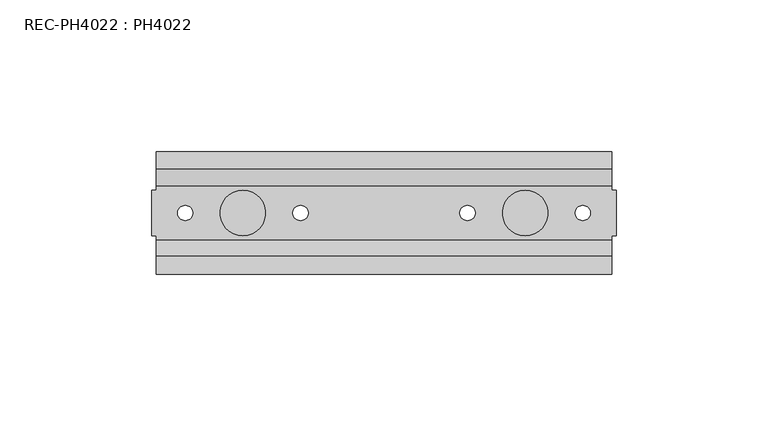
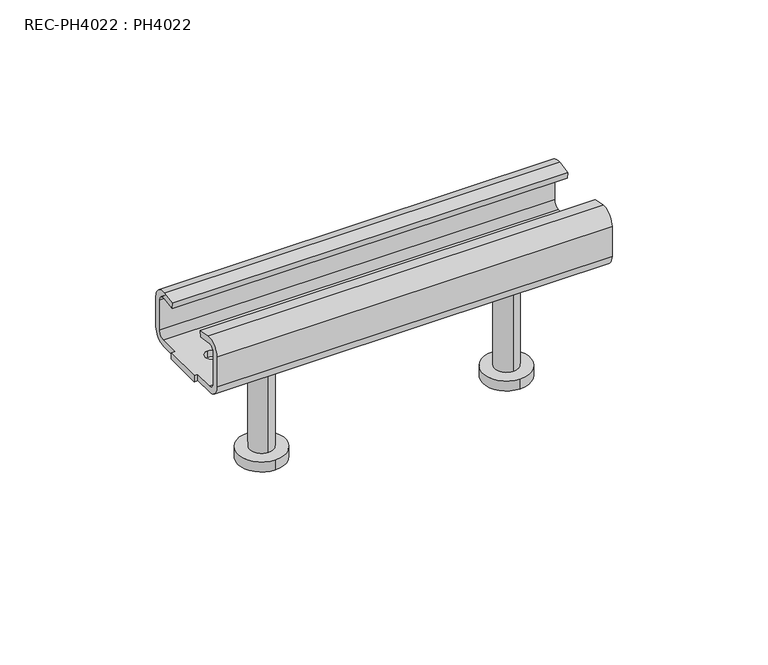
"""IFC4 building model written with IfcOpenShell, lengths in millimetres: fastener geometry, REC-PH4022 : PH4022."""

import ifcopenshell
import ifcopenshell.guid

model = None  # the IFC model being written
_history = None  # IfcOwnerHistory: only IFC2X3 demands one
_inside = {}  # id of a spatial element -> (the spatial element, [elements in it])
_under = {}  # id of a project, library or spatial element -> (it, [spatial elements below it])
_declared = {}  # id of a project -> (the project, [libraries it declares])
_typed = {}  # id of a type object -> (the type object, [elements of that type])
_made_of = {}  # id of a material, layer set ... -> (it, [elements and type objects made of it])


def new_model(schema):
    """Start an empty IFC model of exactly this schema.

    Asked for "IFC4X3", IfcOpenShell would pick the latest addendum, in which some entities
    have other attributes; the version numbers below select the first issue.
    IFC2X3 requires an IfcOwnerHistory on every rooted entity: one is made here for all.
    """
    global model, _history
    if schema == "IFC4X3":
        model = ifcopenshell.file(schema_version=(4, 3, 0, 0))
    else:
        model = ifcopenshell.file(schema=schema)
    _inside.clear()
    _under.clear()
    _declared.clear()
    _typed.clear()
    _made_of.clear()
    _history = None
    if model.schema == "IFC2X3":
        org = make("IfcOrganization", Name="unknown")
        user = make(
            "IfcPersonAndOrganization",
            ThePerson=make("IfcPerson", FamilyName="unknown"),
            TheOrganization=org,
        )
        app = make(
            "IfcApplication",
            ApplicationDeveloper=org,
            Version="unknown",
            ApplicationFullName="unknown",
            ApplicationIdentifier="unknown",
        )
        _history = make(
            "IfcOwnerHistory",
            OwningUser=user,
            OwningApplication=app,
            ChangeAction="ADDED",
            CreationDate=0,
        )
    return model


def make(cls, **values):
    """One entity of the class cls with the attributes given. An attribute that is None is left unset."""
    return model.create_entity(
        cls, **{name: value for name, value in values.items() if value is not None}
    )


def rooted(cls, **values):
    """An entity with a GlobalId (a new one), such as an element, a storey or a relation."""
    return make(cls, GlobalId=ifcopenshell.guid.new(), OwnerHistory=_history, **values)


def si_unit(unit_type, name, prefix=None):
    """IfcSIUnit, for example si_unit("LENGTHUNIT", "METRE", prefix="MILLI")."""
    return make("IfcSIUnit", UnitType=unit_type, Prefix=prefix, Name=name)


def assignment(units):
    """IfcUnitAssignment: the units of a project."""
    return None if units is None else make("IfcUnitAssignment", Units=units)


def point(xyz):
    """IfcCartesianPoint."""
    return None if xyz is None else make("IfcCartesianPoint", Coordinates=xyz)


def direction(xyz):
    """IfcDirection."""
    return None if xyz is None else make("IfcDirection", DirectionRatios=xyz)


def frame(location, z_axis=None, x_axis=None):
    """IfcAxis2Placement3D, a coordinate frame: its origin and axes. An axis left out is left unset."""
    return make(
        "IfcAxis2Placement3D",
        Location=point(location),
        Axis=direction(z_axis),
        RefDirection=direction(x_axis),
    )


def frame_2d(location, x_axis=None):
    """IfcAxis2Placement2D, a coordinate frame in the plane: its origin and x axis."""
    return make(
        "IfcAxis2Placement2D", Location=point(location), RefDirection=direction(x_axis)
    )


def origin():
    """The frame at (0, 0, 0) with its axes left unset."""
    return frame((0.0, 0.0, 0.0))


def place(relative_to, where):
    """IfcLocalPlacement: puts the frame where relative to a parent placement (None: the world)."""
    return make(
        "IfcLocalPlacement", PlacementRelTo=relative_to, RelativePlacement=where
    )


def context(
    kind, dimensions, precision=None, world=None, true_north=None, identifier=None
):
    """IfcGeometricRepresentationContext, for example the 3D "Model" context."""
    return make(
        "IfcGeometricRepresentationContext",
        ContextIdentifier=identifier,
        ContextType=kind,
        CoordinateSpaceDimension=dimensions,
        Precision=precision,
        WorldCoordinateSystem=world,
        TrueNorth=true_north,
    )


def project(units=None, contexts=None):
    """IfcProject with its units and contexts."""
    return rooted(
        "IfcProject",
        Name="project",
        RepresentationContexts=contexts,
        UnitsInContext=assignment(units),
    )


def spatial(cls, under=None, at=None, **own):
    """A site, building, storey or space (cls), placed at a placement, below another one or the project."""
    s = rooted(cls, ObjectPlacement=at, **own)
    if under is not None:
        _under.setdefault(under.id(), (under, []))[1].append(s)
    return s


def polyline(points):
    """IfcPolyline through the points."""
    return make("IfcPolyline", Points=[point(p) for p in points])


def circle_curve(where, radius):
    """IfcCircle in the frame where."""
    return make("IfcCircle", Position=where, Radius=radius)


def trimmed(basis, trim1, trim2, sense, master):
    """IfcTrimmedCurve: the piece of a basis curve between two trims."""
    return make(
        "IfcTrimmedCurve",
        BasisCurve=basis,
        Trim1=trim1,
        Trim2=trim2,
        SenseAgreement=sense,
        MasterRepresentation=master,
    )


def segment(curve, same_sense, transition):
    """IfcCompositeCurveSegment."""
    return make(
        "IfcCompositeCurveSegment",
        Transition=transition,
        SameSense=same_sense,
        ParentCurve=curve,
    )


def composite_curve(segments, self_intersect=None):
    """IfcCompositeCurve: segments joined end to end."""
    return make("IfcCompositeCurve", Segments=segments, SelfIntersect=self_intersect)


def outline(outer, holes=None, kind="AREA"):
    """IfcArbitraryClosedProfileDef: a profile drawn as a closed curve; with holes, ...WithVoids."""
    if holes is None:
        return make("IfcArbitraryClosedProfileDef", ProfileType=kind, OuterCurve=outer)
    return make(
        "IfcArbitraryProfileDefWithVoids",
        ProfileType=kind,
        OuterCurve=outer,
        InnerCurves=holes,
    )


def extrude(swept, where, along, depth):
    """IfcExtrudedAreaSolid: the profile swept, set in the frame where, extruded along a direction by depth."""
    return make(
        "IfcExtrudedAreaSolid",
        SweptArea=swept,
        Position=where,
        ExtrudedDirection=direction(along),
        Depth=depth,
    )


def shape(context_of_items, identifier, shape_type, items):
    """IfcShapeRepresentation: the items that make up one representation, for example the "Body"."""
    return make(
        "IfcShapeRepresentation",
        ContextOfItems=context_of_items,
        RepresentationIdentifier=identifier,
        RepresentationType=shape_type,
        Items=items,
    )


def source(mapping_origin, context_of_items, identifier, shape_type, items):
    """IfcRepresentationMap: a shape defined once, which mapped items show again and again."""
    return make(
        "IfcRepresentationMap",
        MappingOrigin=mapping_origin,
        MappedRepresentation=shape(context_of_items, identifier, shape_type, items),
    )


def transform(
    local_origin,
    x_axis=None,
    y_axis=None,
    z_axis=None,
    scale=None,
    scale2=None,
    scale3=None,
    uniform=True,
):
    """IfcCartesianTransformationOperator3D, or its non-uniform kind. x_axis, y_axis, z_axis: its Axis1, 2, 3."""
    if uniform:
        return make(
            "IfcCartesianTransformationOperator3D",
            Axis1=direction(x_axis),
            Axis2=direction(y_axis),
            LocalOrigin=point(local_origin),
            Scale=scale,
            Axis3=direction(z_axis),
        )
    return make(
        "IfcCartesianTransformationOperator3DnonUniform",
        Axis1=direction(x_axis),
        Axis2=direction(y_axis),
        LocalOrigin=point(local_origin),
        Scale=scale,
        Axis3=direction(z_axis),
        Scale2=scale2,
        Scale3=scale3,
    )


def mapped(mapping_source, mapping_target):
    """IfcMappedItem: shows the shape of a source again, moved by a transform."""
    return make(
        "IfcMappedItem", MappingSource=mapping_source, MappingTarget=mapping_target
    )


def made_of(thing, what):
    """Note that an element or type object is made of a material, layer set ...; save() writes the relation."""
    if what is not None:
        _made_of.setdefault(what.id(), (what, []))[1].append(thing)
    return thing


def element(
    cls,
    number,
    at=None,
    inside=None,
    cuts=None,
    type_object=None,
    material=None,
    context=None,
    identifier="Body",
    shape_type=None,
    held_by="IfcProductDefinitionShape",
    body=None,
    shapes=None,
    **own,
):
    """One element of the class cls, such as IfcWall. Its Tag is "e" and its number.

    at: its placement. inside: the storey or other place that contains it. cuts: it is an
    opening in that element (IfcRelVoidsElement). A single representation is given by context,
    identifier, shape_type and body (its items); several are given by shapes. held_by: the class
    of the entity that holds the representations. save() writes the other relations.
    """
    e = rooted(cls, Tag="e%d" % number, ObjectPlacement=at, **own)
    if body is not None:
        shapes = [shape(context, identifier, shape_type, body)]
    if shapes is not None:
        e.Representation = make(held_by, Representations=shapes)
    if inside is not None:
        _inside.setdefault(inside.id(), (inside, []))[1].append(e)
    if cuts is not None:
        rooted(
            "IfcRelVoidsElement", RelatingBuildingElement=cuts, RelatedOpeningElement=e
        )
    if type_object is not None:
        _typed.setdefault(type_object.id(), (type_object, []))[1].append(e)
    return made_of(e, material)


def aggregate(whole, parts):
    """IfcRelAggregates: a whole, such as a stair, and the parts it consists of."""
    return rooted("IfcRelAggregates", RelatingObject=whole, RelatedObjects=parts)


def save(model, path):
    """Write the relations noted so far, then the file.

    IfcRelAggregates (storeys below a building ...), IfcRelContainedInSpatialStructure (elements
    in a storey), IfcRelDefinesByType, IfcRelAssociatesMaterial and IfcRelDeclares: one each for
    every whole, place, type object, material and project.
    """
    for whole, parts in _under.values():
        aggregate(whole, parts)
    for where, things in _inside.values():
        rooted(
            "IfcRelContainedInSpatialStructure",
            RelatedElements=things,
            RelatingStructure=where,
        )
    for kind, things in _typed.values():
        rooted("IfcRelDefinesByType", RelatedObjects=things, RelatingType=kind)
    for what, things in _made_of.values():
        rooted("IfcRelAssociatesMaterial", RelatedObjects=things, RelatingMaterial=what)
    for by, libraries in _declared.values():
        rooted("IfcRelDeclares", RelatingContext=by, RelatedDefinitions=libraries)
    model.write(path)


def plane_surface(at):
    """IfcPlane: the flat surface through the origin of the frame at, square to its z axis."""
    return make("IfcPlane", Position=at)


def cylinder_surface(at, radius):
    """IfcCylindricalSurface: all points at the distance radius from the z axis of the frame at."""
    return make("IfcCylindricalSurface", Position=at, Radius=radius)


def revolved_surface(curve, axis_point, axis_direction):
    """IfcSurfaceOfRevolution: the curve turned about the line through axis_point along axis_direction."""
    return make(
        "IfcSurfaceOfRevolution",
        SweptCurve=make("IfcArbitraryOpenProfileDef", ProfileType="CURVE", Curve=curve),
        AxisPosition=make("IfcAxis1Placement", Location=point(axis_point), Axis=direction(axis_direction)),
    )


def advanced_brep(points, edges, surfaces, faces):
    """IfcAdvancedBrep: a solid bounded by faces that lie on surfaces and meet in shared edges.

    An edge is (start, end): straight between two places in points (the first is 0);
    or (start, end, curve); or (start, end, curve, False) where it runs against its curve.
    A face is (place in surfaces, loops), or (place, loops, False) where it looks against
    its surface's normal. A loop lists edges by number (the first is 1), with a minus sign
    where the edge is run from its end to its start. The first loop is the outer one.
    """
    corners = [point(p) for p in points]
    vertices = [make("IfcVertexPoint", VertexGeometry=c) for c in corners]
    made = []
    for start, end, *more in edges:
        made.append(
            make(
                "IfcEdgeCurve",
                EdgeStart=vertices[start],
                EdgeEnd=vertices[end],
                EdgeGeometry=more[0] if more else make("IfcPolyline", Points=[corners[start], corners[end]]),
                SameSense=more[1] if len(more) > 1 else True,
            )
        )
    hull = []
    for where, loops, *sense in faces:
        bounds = []
        for j, loop in enumerate(loops):
            ring = [make("IfcOrientedEdge", EdgeElement=made[abs(k) - 1], Orientation=k > 0) for k in loop]
            bounds.append(
                make(
                    "IfcFaceOuterBound" if j == 0 else "IfcFaceBound",
                    Bound=make("IfcEdgeLoop", EdgeList=ring),
                    Orientation=True,
                )
            )
        hull.append(make("IfcAdvancedFace", Bounds=bounds, FaceSurface=surfaces[where], SameSense=sense[0] if sense else True))
    return make("IfcAdvancedBrep", Outer=make("IfcClosedShell", CfsFaces=hull))


def rec_ph4022_ph4022_34b11cd3(model_context):
    return source(origin(), model_context, "Body", "SolidModel", [
        extrude(outline(composite_curve([segment(trimmed(circle_curve(frame_2d((46.5, 0.0)), 7.5), [point((46.5, 7.5))], [point((46.5, -7.5))], False, "CARTESIAN"), True, "CONTINUOUS"), segment(trimmed(circle_curve(frame_2d((46.5, 0.0)), 7.5), [point((46.5, -7.5))], [point((46.5, 7.5))], False, "CARTESIAN"), True, "CONTINUOUS")], self_intersect=False)), frame((0.0, 0.0, -19.5748058), z_axis=(0.0, 0.0, 1.0), x_axis=(1.0, 0.0, 0.0)), (0.0, 0.0, 1.0), 3.5),
        extrude(outline(composite_curve([segment(trimmed(circle_curve(frame_2d((46.5, 0.0)), 9.0), [point((46.5, 9.0))], [point((46.5, -9.0))], False, "CARTESIAN"), True, "CONTINUOUS"), segment(trimmed(circle_curve(frame_2d((46.5, 0.0)), 9.0), [point((46.5, -9.0))], [point((46.5, 9.0))], False, "CARTESIAN"), True, "CONTINUOUS")], self_intersect=False)), frame((0.0, 0.0, -67.0748058), z_axis=(0.0, 0.0, 1.0), x_axis=(1.0, 0.0, 0.0)), (0.0, 0.0, 1.0), 4.0),
        extrude(outline(composite_curve([segment(trimmed(circle_curve(frame_2d((46.5, 0.0)), 4.5), [point((46.5, -4.5))], [point((46.5, 4.5))], False, "CARTESIAN"), True, "CONTINUOUS"), segment(trimmed(circle_curve(frame_2d((46.5, 0.0)), 4.5), [point((46.5, 4.5))], [point((46.5, -4.5))], False, "CARTESIAN"), True, "CONTINUOUS")], self_intersect=False)), frame((0.0, 0.0, -63.0748058), z_axis=(0.0, 0.0, 1.0), x_axis=(1.0, 0.0, 0.0)), (0.0, 0.0, 1.0), 41.0),
        extrude(outline(composite_curve([segment(trimmed(circle_curve(frame_2d((-46.5, 0.0)), 7.5), [point((-46.5, 7.5))], [point((-46.5, -7.5))], False, "CARTESIAN"), True, "CONTINUOUS"), segment(trimmed(circle_curve(frame_2d((-46.5, 0.0)), 7.5), [point((-46.5, -7.5))], [point((-46.5, 7.5))], False, "CARTESIAN"), True, "CONTINUOUS")], self_intersect=False)), frame((0.0, 0.0, -19.5748058), z_axis=(0.0, 0.0, 1.0), x_axis=(1.0, 0.0, 0.0)), (0.0, 0.0, 1.0), 3.5),
        extrude(outline(composite_curve([segment(trimmed(circle_curve(frame_2d((-46.5, 0.0)), 9.0), [point((-46.5, 9.0))], [point((-46.5, -9.0))], False, "CARTESIAN"), True, "CONTINUOUS"), segment(trimmed(circle_curve(frame_2d((-46.5, 0.0)), 9.0), [point((-46.5, -9.0))], [point((-46.5, 9.0))], False, "CARTESIAN"), True, "CONTINUOUS")], self_intersect=False)), frame((0.0, 0.0, -67.0748058), z_axis=(0.0, 0.0, 1.0), x_axis=(1.0, 0.0, 0.0)), (0.0, 0.0, 1.0), 4.0),
        extrude(outline(composite_curve([segment(trimmed(circle_curve(frame_2d((-46.5, 0.0)), 4.5), [point((-46.5, -4.5))], [point((-46.5, 4.5))], False, "CARTESIAN"), True, "CONTINUOUS"), segment(trimmed(circle_curve(frame_2d((-46.5, 0.0)), 4.5), [point((-46.5, 4.5))], [point((-46.5, -4.5))], False, "CARTESIAN"), True, "CONTINUOUS")], self_intersect=False)), frame((0.0, 0.0, -63.0748058), z_axis=(0.0, 0.0, 1.0), x_axis=(1.0, 0.0, 0.0)), (0.0, 0.0, 1.0), 41.0),
        advanced_brep(
        [(76.5, 7.5, -19.5748058), (76.5, -7.5, -19.5748058), (76.5, -7.5, -22.0748058), (76.5, 7.5, -22.0748058), (-76.5, 7.5, -22.0748058), (-76.5, -7.5, -22.0748058), (-76.5, -7.5, -19.5748058), (-76.5, 7.5, -19.5748058), (75.0, 9.0, -1.0), (-75.0, 9.0, -1.0), (-75.0, 9.3971276, -3.4682564), (75.0, 9.3971276, -3.4682564), (75.0, 14.3557449, -0.138293), (-75.0, 14.3557449, -0.138293), (75.0, 20.15, -5.0748058), (-75.0, 20.15, -5.0748058), (75.0, 20.15, -17.0748058), (-75.0, 20.15, -17.0748058), (75.0, 15.15, -22.0748058), (-75.0, 15.15, -22.0748058), (75.0, 7.5, -22.0748058), (75.0, -7.5, -22.0748058), (75.0, -15.15, -22.0748058), (-75.0, -15.15, -22.0748058), (-75.0, -7.5, -22.0748058), (-75.0, 7.5, -22.0748058), (65.5, 2.5, -22.0748058), (65.5, -2.5, -22.0748058), (27.5, 2.5, -22.0748058), (27.5, -2.5, -22.0748058), (-27.5, 2.5, -22.0748058), (-27.5, -2.5, -22.0748058), (-65.5, 2.5, -22.0748058), (-65.5, -2.5, -22.0748058), (46.5, -2.5, -22.0748058), (46.5, 2.5, -22.0748058), (-46.5, 2.5, -22.0748058), (-46.5, -2.5, -22.0748058), (75.0, -20.15, -17.0748058), (-75.0, -20.15, -17.0748058), (75.0, -20.15, -5.0), (-75.0, -20.15, -5.0), (75.0, -14.2883377, -0.0748058), (-75.0, -14.2883377, -0.0748058), (75.0, -9.0, -1.0), (-75.0, -9.0, -1.0), (75.0, -9.4308311, -3.4625971), (-75.0, -9.4308311, -3.4625971), (75.0, -14.7191689, -2.5374029), (-75.0, -14.7191689, -2.5374029), (75.0, -17.65, -5.0), (-75.0, -17.65, -5.0), (75.0, -17.65, -17.0748058), (-75.0, -17.65, -17.0748058), (75.0, -15.15, -19.5748058), (-75.0, -15.15, -19.5748058), (75.0, 15.15, -19.5748058), (-75.0, 15.15, -19.5748058), (-75.0, 7.5, -19.5748058), (-75.0, -7.5, -19.5748058), (75.0, -7.5, -19.5748058), (75.0, 7.5, -19.5748058), (65.5, -2.5, -19.5748058), (65.5, 2.5, -19.5748058), (27.5, -2.5, -19.5748058), (27.5, 2.5, -19.5748058), (-27.5, -2.5, -19.5748058), (-27.5, 2.5, -19.5748058), (-65.5, -2.5, -19.5748058), (-65.5, 2.5, -19.5748058), (46.5, 2.5, -19.5748058), (46.5, -2.5, -19.5748058), (-46.5, -2.5, -19.5748058), (-46.5, 2.5, -19.5748058), (75.0, 17.65, -17.0748058), (-75.0, 17.65, -17.0748058), (75.0, 17.65, -5.0748058), (-75.0, 17.65, -5.0748058), (75.0, 14.7528724, -2.6065494), (-75.0, 14.7528724, -2.6065494)],
        [
            (0, 1),
            (1, 2),
            (2, 3),
            (3, 0),
            (4, 5),
            (5, 6),
            (6, 7),
            (7, 4),
            (8, 9),
            (9, 10),
            (10, 11),
            (11, 8),
            (12, 13),
            (13, 9),
            (8, 12),
            (14, 15),
            (15, 13, circle_curve(frame((-75.0, 15.15, -5.0748058), z_axis=(1.0, 0.0, 0.0), x_axis=(0.0, -1.0, 0.0)), 5.0)),
            (12, 14, circle_curve(frame((75.0, 15.15, -5.0748058), z_axis=(-1.0, 0.0, 0.0), x_axis=(0.0, -1.0, 0.0)), 5.0)),
            (16, 17),
            (17, 15),
            (14, 16),
            (18, 19),
            (19, 17, circle_curve(frame((-75.0, 15.15, -17.0748058), z_axis=(1.0, 0.0, 0.0), x_axis=(0.0, -1.0, 0.0)), 5.0)),
            (16, 18, circle_curve(frame((75.0, 15.15, -17.0748058), z_axis=(-1.0, 0.0, 0.0), x_axis=(0.0, -1.0, 0.0)), 5.0)),
            (20, 3),
            (2, 21),
            (21, 22),
            (22, 23),
            (23, 24),
            (24, 5),
            (4, 25),
            (25, 19),
            (18, 20),
            (26, 27, circle_curve(frame((65.5, 0.0, -22.0748058), z_axis=(0.0, 0.0, 1.0), x_axis=(0.0, -1.0, 0.0)), 2.5)),
            (27, 26, circle_curve(frame((65.5, 0.0, -22.0748058), z_axis=(0.0, 0.0, 1.0), x_axis=(0.0, -1.0, 0.0)), 2.5)),
            (28, 29, circle_curve(frame((27.5, 0.0, -22.0748058), z_axis=(0.0, 0.0, 1.0), x_axis=(0.0, -1.0, 0.0)), 2.5)),
            (29, 28, circle_curve(frame((27.5, 0.0, -22.0748058), z_axis=(0.0, 0.0, 1.0), x_axis=(0.0, -1.0, 0.0)), 2.5)),
            (30, 31, circle_curve(frame((-27.5, 0.0, -22.0748058), z_axis=(0.0, 0.0, 1.0), x_axis=(0.0, -1.0, 0.0)), 2.5)),
            (31, 30, circle_curve(frame((-27.5, 0.0, -22.0748058), z_axis=(0.0, 0.0, 1.0), x_axis=(0.0, -1.0, 0.0)), 2.5)),
            (32, 33, circle_curve(frame((-65.5, 0.0, -22.0748058), z_axis=(0.0, 0.0, 1.0), x_axis=(0.0, -1.0, 0.0)), 2.5)),
            (33, 32, circle_curve(frame((-65.5, 0.0, -22.0748058), z_axis=(0.0, 0.0, 1.0), x_axis=(0.0, -1.0, 0.0)), 2.5)),
            (34, 35, circle_curve(frame((46.5, 0.0, -22.0748058), z_axis=(0.0, 0.0, 1.0), x_axis=(0.0, -1.0, 0.0)), 2.5)),
            (35, 34, circle_curve(frame((46.5, 0.0, -22.0748058), z_axis=(0.0, 0.0, 1.0), x_axis=(0.0, -1.0, 0.0)), 2.5)),
            (36, 37, circle_curve(frame((-46.5, 0.0, -22.0748058), z_axis=(0.0, 0.0, 1.0), x_axis=(0.0, -1.0, 0.0)), 2.5)),
            (37, 36, circle_curve(frame((-46.5, 0.0, -22.0748058), z_axis=(0.0, 0.0, 1.0), x_axis=(0.0, -1.0, 0.0)), 2.5)),
            (38, 39),
            (39, 23, circle_curve(frame((-75.0, -15.15, -17.0748058), z_axis=(1.0, 0.0, 0.0), x_axis=(0.0, -1.0, 0.0)), 5.0)),
            (22, 38, circle_curve(frame((75.0, -15.15, -17.0748058), z_axis=(-1.0, 0.0, 0.0), x_axis=(0.0, -1.0, 0.0)), 5.0)),
            (40, 41),
            (41, 39),
            (38, 40),
            (42, 43),
            (43, 41, circle_curve(frame((-75.0, -15.15, -5.0), z_axis=(1.0, 0.0, 0.0), x_axis=(0.0, -1.0, 0.0)), 5.0)),
            (40, 42, circle_curve(frame((75.0, -15.15, -5.0), z_axis=(-1.0, 0.0, 0.0), x_axis=(0.0, -1.0, 0.0)), 5.0)),
            (44, 45),
            (45, 43),
            (42, 44),
            (46, 47),
            (47, 45),
            (44, 46),
            (48, 49),
            (49, 47),
            (46, 48),
            (50, 51),
            (51, 49, circle_curve(frame((-75.0, -15.15, -5.0), z_axis=(-1.0, 0.0, 0.0), x_axis=(0.0, -1.0, 0.0)), 2.5)),
            (48, 50, circle_curve(frame((75.0, -15.15, -5.0), z_axis=(1.0, 0.0, 0.0), x_axis=(0.0, -1.0, 0.0)), 2.5)),
            (52, 53),
            (53, 51),
            (50, 52),
            (54, 55),
            (55, 53, circle_curve(frame((-75.0, -15.15, -17.0748058), z_axis=(-1.0, 0.0, 0.0), x_axis=(0.0, -1.0, 0.0)), 2.5)),
            (52, 54, circle_curve(frame((75.0, -15.15, -17.0748058), z_axis=(1.0, 0.0, 0.0), x_axis=(0.0, -1.0, 0.0)), 2.5)),
            (56, 57),
            (57, 58),
            (58, 7),
            (6, 59),
            (59, 55),
            (54, 60),
            (60, 1),
            (0, 61),
            (61, 56),
            (62, 63, circle_curve(frame((65.5, 0.0, -19.5748058), z_axis=(0.0, 0.0, -1.0), x_axis=(0.0, -1.0, 0.0)), 2.5)),
            (63, 62, circle_curve(frame((65.5, 0.0, -19.5748058), z_axis=(0.0, 0.0, -1.0), x_axis=(0.0, -1.0, 0.0)), 2.5)),
            (64, 65, circle_curve(frame((27.5, 0.0, -19.5748058), z_axis=(0.0, 0.0, -1.0), x_axis=(0.0, -1.0, 0.0)), 2.5)),
            (65, 64, circle_curve(frame((27.5, 0.0, -19.5748058), z_axis=(0.0, 0.0, -1.0), x_axis=(0.0, -1.0, 0.0)), 2.5)),
            (66, 67, circle_curve(frame((-27.5, 0.0, -19.5748058), z_axis=(0.0, 0.0, -1.0), x_axis=(0.0, -1.0, 0.0)), 2.5)),
            (67, 66, circle_curve(frame((-27.5, 0.0, -19.5748058), z_axis=(0.0, 0.0, -1.0), x_axis=(0.0, -1.0, 0.0)), 2.5)),
            (68, 69, circle_curve(frame((-65.5, 0.0, -19.5748058), z_axis=(0.0, 0.0, -1.0), x_axis=(0.0, -1.0, 0.0)), 2.5)),
            (69, 68, circle_curve(frame((-65.5, 0.0, -19.5748058), z_axis=(0.0, 0.0, -1.0), x_axis=(0.0, -1.0, 0.0)), 2.5)),
            (70, 71, circle_curve(frame((46.5, 0.0, -19.5748058), z_axis=(0.0, 0.0, -1.0), x_axis=(0.0, -1.0, 0.0)), 2.5)),
            (71, 70, circle_curve(frame((46.5, 0.0, -19.5748058), z_axis=(0.0, 0.0, -1.0), x_axis=(0.0, -1.0, 0.0)), 2.5)),
            (72, 73, circle_curve(frame((-46.5, 0.0, -19.5748058), z_axis=(0.0, 0.0, -1.0), x_axis=(0.0, -1.0, 0.0)), 2.5)),
            (73, 72, circle_curve(frame((-46.5, 0.0, -19.5748058), z_axis=(0.0, 0.0, -1.0), x_axis=(0.0, -1.0, 0.0)), 2.5)),
            (74, 75),
            (75, 57, circle_curve(frame((-75.0, 15.15, -17.0748058), z_axis=(-1.0, 0.0, 0.0), x_axis=(0.0, -1.0, 0.0)), 2.5)),
            (56, 74, circle_curve(frame((75.0, 15.15, -17.0748058), z_axis=(1.0, 0.0, 0.0), x_axis=(0.0, -1.0, 0.0)), 2.5)),
            (76, 77),
            (77, 75),
            (74, 76),
            (78, 79),
            (79, 77, circle_curve(frame((-75.0, 15.15, -5.0748058), z_axis=(-1.0, 0.0, 0.0), x_axis=(0.0, -1.0, 0.0)), 2.5)),
            (76, 78, circle_curve(frame((75.0, 15.15, -5.0748058), z_axis=(1.0, 0.0, 0.0), x_axis=(0.0, -1.0, 0.0)), 2.5)),
            (10, 79),
            (78, 11),
            (61, 20),
            (21, 60),
            (25, 58),
            (59, 24),
            (27, 62),
            (63, 26),
            (29, 64),
            (65, 28),
            (31, 66),
            (67, 30),
            (33, 68),
            (69, 32),
            (35, 70),
            (71, 34),
            (37, 72),
            (73, 36),
        ],
        [
            plane_surface(frame((76.5, 9.0, -1.0), z_axis=(1.0, 0.0, 0.0), x_axis=(0.0, -0.1588510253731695, 0.9873025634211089))),
            plane_surface(frame((-76.5, 9.0, -1.0), z_axis=(-1.0, 0.0, 0.0), x_axis=(0.0, 0.1588510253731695, -0.9873025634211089))),
            plane_surface(frame((76.5, 9.3971276, -3.4682564), z_axis=(0.0, -0.9873025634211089, -0.1588510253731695), x_axis=(-1.0, 0.0, 0.0))),
            plane_surface(frame((76.5, 9.0, -1.0), z_axis=(0.0, -0.158851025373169, 0.987302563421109), x_axis=(-1.0, 0.0, 0.0))),
            cylinder_surface(frame((-76.5, 15.15, -5.0748058), z_axis=(1.0, 0.0, 0.0), x_axis=(0.0, -1.0, 0.0)), 5.0),
            plane_surface(frame((76.5, 20.15, -5.0748058), z_axis=(0.0, 1.0, 0.0), x_axis=(-1.0, 0.0, 0.0))),
            cylinder_surface(frame((-76.5, 15.15, -17.0748058), z_axis=(1.0, 0.0, 0.0), x_axis=(0.0, -1.0, 0.0)), 5.0),
            plane_surface(frame((76.5, 15.15, -22.0748058), z_axis=(0.0, 0.0, -1.0), x_axis=(-1.0, 0.0, 0.0))),
            cylinder_surface(frame((-76.5, -15.15, -17.0748058), z_axis=(1.0, 0.0, 0.0), x_axis=(0.0, -1.0, 0.0)), 5.0),
            plane_surface(frame((76.5, -20.15, -17.0748058), z_axis=(0.0, -1.0, 0.0), x_axis=(-1.0, 0.0, 0.0))),
            cylinder_surface(frame((-76.5, -15.15, -5.0), z_axis=(1.0, 0.0, 0.0), x_axis=(0.0, -1.0, 0.0)), 5.0),
            plane_surface(frame((76.5, -14.2883377, -0.0748058), z_axis=(0.0, 0.17233245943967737, 0.9850388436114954), x_axis=(-1.0, 0.0, 0.0))),
            plane_surface(frame((76.5, -9.0, -1.0), z_axis=(0.0, 0.9850388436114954, -0.172332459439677), x_axis=(-1.0, 0.0, 0.0))),
            plane_surface(frame((76.5, -9.4308311, -3.4625971), z_axis=(0.0, -0.17233245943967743, -0.9850388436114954), x_axis=(-1.0, 0.0, 0.0))),
            revolved_surface(polyline([(-75.0, -17.65, -5.0), (75.0, -17.65, -5.0)]), (-76.5, -15.15, -5.0), (-1.0, 0.0, 0.0)),
            plane_surface(frame((76.5, -17.65, -5.0), z_axis=(0.0, 1.0, 0.0), x_axis=(-1.0, 0.0, 0.0))),
            revolved_surface(polyline([(-75.0, -17.65, -17.0748058), (75.0, -17.65, -17.0748058)]), (-76.5, -15.15, -17.0748058), (-1.0, 0.0, 0.0)),
            plane_surface(frame((76.5, -15.15, -19.5748058), z_axis=(0.0, 0.0, 1.0), x_axis=(-1.0, 0.0, 0.0))),
            revolved_surface(polyline([(-75.0, 12.65, -17.0748058), (75.0, 12.65, -17.0748058)]), (-76.5, 15.15, -17.0748058), (-1.0, 0.0, 0.0)),
            plane_surface(frame((76.5, 17.65, -17.0748058), z_axis=(0.0, -1.0, 0.0), x_axis=(-1.0, 0.0, 0.0))),
            revolved_surface(polyline([(-75.0, 12.65, -5.0748058), (75.0, 12.65, -5.0748058)]), (-76.5, 15.15, -5.0748058), (-1.0, 0.0, 0.0)),
            plane_surface(frame((76.5, 14.7528724, -2.6065494), z_axis=(0.0, 0.15885102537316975, -0.9873025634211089), x_axis=(-1.0, 0.0, 0.0))),
            plane_surface(frame((75.0, 7.5, 0.824427), z_axis=(1.0, 0.0, 0.0), x_axis=(0.0, 0.0, -1.0))),
            plane_surface(frame((76.5, 7.5, 0.824427), z_axis=(0.0, 1.0, 0.0), x_axis=(0.0, 0.0, -1.0))),
            plane_surface(frame((75.0, -20.15, 0.824427), z_axis=(1.0, 0.0, 0.0), x_axis=(0.0, 0.0, -1.0))),
            plane_surface(frame((75.0, -7.5, 0.824427), z_axis=(0.0, -1.0, 0.0), x_axis=(0.0, 0.0, -1.0))),
            plane_surface(frame((-75.0, 20.15, 0.824427), z_axis=(-1.0, 0.0, 0.0), x_axis=(0.0, 0.0, -1.0))),
            plane_surface(frame((-75.0, 7.5, 0.824427), z_axis=(0.0, 1.0, 0.0), x_axis=(0.0, 0.0, -1.0))),
            plane_surface(frame((-75.0, -7.5, 0.824427), z_axis=(-1.0, 0.0, 0.0), x_axis=(0.0, 0.0, -1.0))),
            plane_surface(frame((-76.5, -7.5, 0.824427), z_axis=(0.0, -1.0, 0.0), x_axis=(0.0, 0.0, -1.0))),
            revolved_surface(polyline([(65.5, -2.5, -22.0748058), (65.5, -2.5, -19.5748058)]), (65.5, 0.0, -19.5748058), (0.0, 0.0, -1.0)),
            revolved_surface(polyline([(27.5, -2.5, -22.0748058), (27.5, -2.5, -19.5748058)]), (27.5, 0.0, -19.5748058), (0.0, 0.0, -1.0)),
            revolved_surface(polyline([(-27.5, -2.5, -22.0748058), (-27.5, -2.5, -19.5748058)]), (-27.5, 0.0, -19.5748058), (0.0, 0.0, -1.0)),
            revolved_surface(polyline([(-65.5, -2.5, -22.0748058), (-65.5, -2.5, -19.5748058)]), (-65.5, 0.0, -19.5748058), (0.0, 0.0, -1.0)),
            revolved_surface(polyline([(46.5, -2.5, -22.0748058), (46.5, -2.5, -19.5748058)]), (46.5, 0.0, -19.5748058), (0.0, 0.0, -1.0)),
            revolved_surface(polyline([(-46.5, -2.5, -22.0748058), (-46.5, -2.5, -19.5748058)]), (-46.5, 0.0, -19.5748058), (0.0, 0.0, -1.0)),
        ],
        [
            (0, [[1, 2, 3, 4]]),
            (1, [[5, 6, 7, 8]]),
            (2, [[9, 10, 11, 12]]),
            (3, [[13, 14, -9, 15]]),
            (4, [[16, 17, -13, 18]]),
            (5, [[19, 20, -16, 21]]),
            (6, [[22, 23, -19, 24]]),
            (7, [[25, -3, 26, 27, 28, 29, 30, -5, 31, 32, -22, 33], [34, 35], [36, 37], [38, 39], [40, 41], [42, 43], [44, 45]]),
            (8, [[46, 47, -28, 48]]),
            (9, [[49, 50, -46, 51]]),
            (10, [[52, 53, -49, 54]]),
            (11, [[55, 56, -52, 57]]),
            (12, [[58, 59, -55, 60]]),
            (13, [[61, 62, -58, 63]]),
            (14, [[64, 65, -61, 66]]),
            (15, [[67, 68, -64, 69]]),
            (16, [[70, 71, -67, 72]]),
            (17, [[73, 74, 75, -7, 76, 77, -70, 78, 79, -1, 80, 81], [82, 83], [84, 85], [86, 87], [88, 89], [90, 91], [92, 93]]),
            (18, [[94, 95, -73, 96]]),
            (19, [[97, 98, -94, 99]]),
            (20, [[100, 101, -97, 102]]),
            (21, [[-11, 103, -100, 104]]),
            (22, [[-33, -24, -21, -18, -15, -12, -104, -102, -99, -96, -81, 105]]),
            (23, [[-80, -4, -25, -105]]),
            (24, [[-78, -72, -69, -66, -63, -60, -57, -54, -51, -48, -27, 106]]),
            (25, [[-26, -2, -79, -106]]),
            (26, [[-74, -95, -98, -101, -103, -10, -14, -17, -20, -23, -32, 107]]),
            (27, [[-31, -8, -75, -107]]),
            (28, [[-29, -47, -50, -53, -56, -59, -62, -65, -68, -71, -77, 108]]),
            (29, [[-76, -6, -30, -108]]),
            (30, [[-35, 109, -83, 110]]),
            (30, [[-82, -109, -34, -110]]),
            (31, [[-37, 111, -85, 112]]),
            (31, [[-84, -111, -36, -112]]),
            (32, [[-39, 113, -87, 114]]),
            (32, [[-86, -113, -38, -114]]),
            (33, [[-41, 115, -89, 116]]),
            (33, [[-88, -115, -40, -116]]),
            (34, [[-43, 117, -91, 118]]),
            (34, [[-90, -117, -42, -118]]),
            (35, [[-45, 119, -93, 120]]),
            (35, [[-92, -119, -44, -120]]),
        ],
    ),
    ])


if __name__ == "__main__":
    model = new_model("IFC4")
    model_context = context("Model", 3, world=origin())
    ifc_project = project(units=[si_unit("LENGTHUNIT", "METRE", prefix="MILLI")], contexts=[model_context])
    site = spatial("IfcSite", under=ifc_project)
    building = spatial("IfcBuilding", under=site)
    placement = place(None, origin())
    rec_ph4022_ph4022_shape = rec_ph4022_ph4022_34b11cd3(model_context)
    element("IfcFastener", 1, ObjectType="REC-PH4022 : PH4022", at=placement, inside=building, context=model_context, shape_type="MappedRepresentation", body=[
        mapped(rec_ph4022_ph4022_shape, transform((0.0, 0.0, 0.0), x_axis=(1.0, 0.0, 0.0), y_axis=(0.0, 1.0, 0.0), z_axis=(0.0, 0.0, 1.0))),
    ])
    save(model, "model.ifc")
